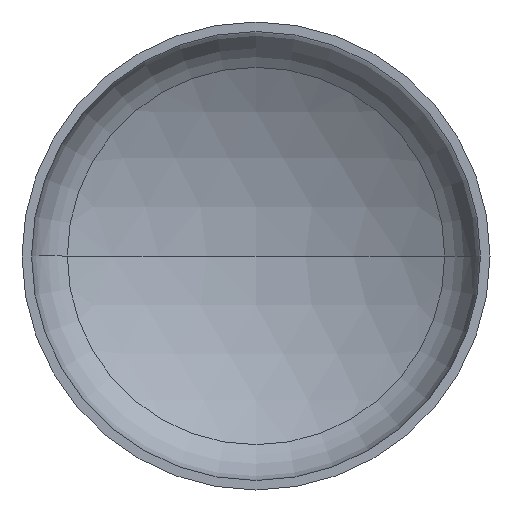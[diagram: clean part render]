
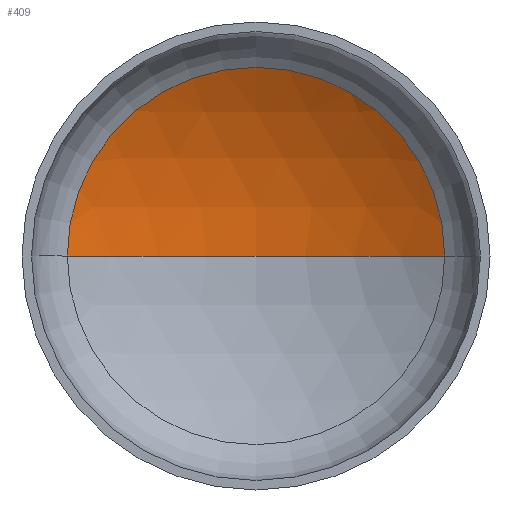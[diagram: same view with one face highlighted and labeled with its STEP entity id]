
A CAD part, front view. The second image highlights one B-rep face of the part: STEP entity #409.
In plain terms, the highlighted spherical face has radius 4000 mm.
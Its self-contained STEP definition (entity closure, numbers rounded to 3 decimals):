
#9 = ORIENTED_EDGE ( 'NONE', *, *, #168, .T. ) ;
#10 = DIRECTION ( 'NONE',  ( 0., -1., 0. ) ) ;
#14 = AXIS2_PLACEMENT_3D ( 'NONE', #159, #149, #213 ) ;
#22 = EDGE_LOOP ( 'NONE', ( #98, #88, #9 ) ) ;
#28 = CARTESIAN_POINT ( 'NONE',  ( 0., 740.041, 0. ) ) ;
#41 = AXIS2_PLACEMENT_3D ( 'NONE', #192, #193, #210 ) ;
#46 = AXIS2_PLACEMENT_3D ( 'NONE', #28, #10, #164 ) ;
#66 = VERTEX_POINT ( 'NONE', #282 ) ;
#74 = VERTEX_POINT ( 'NONE', #314 ) ;
#86 = CARTESIAN_POINT ( 'NONE',  ( 0., -2714.716, 0. ) ) ;
#88 = ORIENTED_EDGE ( 'NONE', *, *, #183, .T. ) ;
#98 = ORIENTED_EDGE ( 'NONE', *, *, #350, .F. ) ;
#148 = VERTEX_POINT ( 'NONE', #205 ) ;
#149 = DIRECTION ( 'NONE',  ( 0., 0., 1. ) ) ;
#159 = CARTESIAN_POINT ( 'NONE',  ( 0., -2714.716, 0. ) ) ;
#164 = DIRECTION ( 'NONE',  ( 1., 0., 0. ) ) ;
#168 = EDGE_CURVE ( 'NONE', #148, #74, #377, .T. ) ;
#183 = EDGE_CURVE ( 'NONE', #66, #148, #251, .T. ) ;
#192 = CARTESIAN_POINT ( 'NONE',  ( 0., -2714.716, 0. ) ) ;
#193 = DIRECTION ( 'NONE',  ( 0., 0., -1. ) ) ;
#194 = FACE_OUTER_BOUND ( 'NONE', #22, .T. ) ;
#205 = CARTESIAN_POINT ( 'NONE',  ( 2016.099, 740.041, 0. ) ) ;
#210 = DIRECTION ( 'NONE',  ( -1., 0., 0. ) ) ;
#213 = DIRECTION ( 'NONE',  ( 1., 0., 0. ) ) ;
#223 = DIRECTION ( 'NONE',  ( 0., 0., -1. ) ) ;
#251 = CIRCLE ( 'NONE', #41, 4000. ) ;
#282 = CARTESIAN_POINT ( 'NONE',  ( 0., 1285.284, 0. ) ) ;
#314 = CARTESIAN_POINT ( 'NONE',  ( -2016.099, 740.041, 0. ) ) ;
#350 = EDGE_CURVE ( 'NONE', #66, #74, #398, .T. ) ;
#377 = CIRCLE ( 'NONE', #46, 2016.099 ) ;
#380 = SPHERICAL_SURFACE ( 'NONE', #402, 4000. ) ;
#381 = DIRECTION ( 'NONE',  ( -1., 0., 0. ) ) ;
#398 = CIRCLE ( 'NONE', #14, 4000. ) ;
#402 = AXIS2_PLACEMENT_3D ( 'NONE', #86, #223, #381 ) ;
#409 = ADVANCED_FACE ( 'NONE', ( #194 ), #380, .F. ) ;
